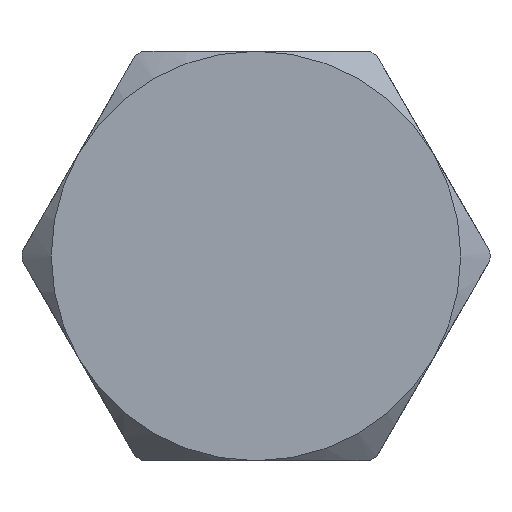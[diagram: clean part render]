
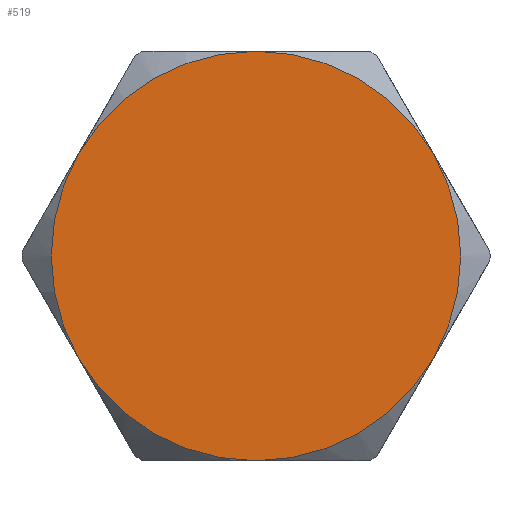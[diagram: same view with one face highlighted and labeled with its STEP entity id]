
A CAD part, front view. The second image highlights one B-rep face of the part: STEP entity #519.
In plain terms, the highlighted planar face has unit normal (0, -1, 0).
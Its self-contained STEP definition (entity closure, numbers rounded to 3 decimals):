
#8 = CARTESIAN_POINT ( 'NONE',  ( 0., -130., 0. ) ) ;
#19 = EDGE_CURVE ( 'NONE', #93, #601, #481, .T. ) ;
#40 = CARTESIAN_POINT ( 'NONE',  ( 3.031, -130., -1.75 ) ) ;
#58 = DIRECTION ( 'NONE',  ( 0., 0., 1. ) ) ;
#84 = ORIENTED_EDGE ( 'NONE', *, *, #384, .F. ) ;
#93 = VERTEX_POINT ( 'NONE', #113 ) ;
#113 = CARTESIAN_POINT ( 'NONE',  ( -3.031, -130., -1.75 ) ) ;
#121 = ORIENTED_EDGE ( 'NONE', *, *, #793, .F. ) ;
#147 = AXIS2_PLACEMENT_3D ( 'NONE', #8, #160, #235 ) ;
#154 = ORIENTED_EDGE ( 'NONE', *, *, #19, .F. ) ;
#160 = DIRECTION ( 'NONE',  ( 0., 1., 0. ) ) ;
#221 = DIRECTION ( 'NONE',  ( 0., 1., 0. ) ) ;
#234 = EDGE_LOOP ( 'NONE', ( #624, #764, #154, #84, #121, #473 ) ) ;
#235 = DIRECTION ( 'NONE',  ( 0., 0., 1. ) ) ;
#259 = PLANE ( 'NONE',  #804 ) ;
#262 = CARTESIAN_POINT ( 'NONE',  ( -3.031, -130., 1.75 ) ) ;
#292 = CARTESIAN_POINT ( 'NONE',  ( 0., -130., 0. ) ) ;
#315 = AXIS2_PLACEMENT_3D ( 'NONE', #292, #715, #440 ) ;
#333 = VERTEX_POINT ( 'NONE', #650 ) ;
#362 = AXIS2_PLACEMENT_3D ( 'NONE', #903, #629, #896 ) ;
#384 = EDGE_CURVE ( 'NONE', #564, #93, #799, .T. ) ;
#413 = DIRECTION ( 'NONE',  ( 0., 0., 1. ) ) ;
#440 = DIRECTION ( 'NONE',  ( 0., 0., 1. ) ) ;
#443 = AXIS2_PLACEMENT_3D ( 'NONE', #772, #498, #58 ) ;
#451 = FACE_OUTER_BOUND ( 'NONE', #234, .T. ) ;
#473 = ORIENTED_EDGE ( 'NONE', *, *, #829, .F. ) ;
#481 = CIRCLE ( 'NONE', #821, 3.5 ) ;
#498 = DIRECTION ( 'NONE',  ( 0., 1., 0. ) ) ;
#519 = ADVANCED_FACE ( 'NONE', ( #451 ), #259, .F. ) ;
#529 = VERTEX_POINT ( 'NONE', #679 ) ;
#532 = CIRCLE ( 'NONE', #315, 3.5 ) ;
#537 = CARTESIAN_POINT ( 'NONE',  ( 0., -130., 0. ) ) ;
#540 = VERTEX_POINT ( 'NONE', #40 ) ;
#547 = DIRECTION ( 'NONE',  ( 0., 1., 0. ) ) ;
#564 = VERTEX_POINT ( 'NONE', #674 ) ;
#568 = CARTESIAN_POINT ( 'NONE',  ( 0., -130., 0. ) ) ;
#575 = DIRECTION ( 'NONE',  ( 0., 0., 1. ) ) ;
#580 = AXIS2_PLACEMENT_3D ( 'NONE', #568, #221, #575 ) ;
#587 = CIRCLE ( 'NONE', #580, 3.5 ) ;
#597 = CIRCLE ( 'NONE', #443, 3.5 ) ;
#601 = VERTEX_POINT ( 'NONE', #262 ) ;
#624 = ORIENTED_EDGE ( 'NONE', *, *, #781, .F. ) ;
#629 = DIRECTION ( 'NONE',  ( 0., 1., 0. ) ) ;
#650 = CARTESIAN_POINT ( 'NONE',  ( 0., -130., 3.5 ) ) ;
#673 = CARTESIAN_POINT ( 'NONE',  ( 0., -130., 0. ) ) ;
#674 = CARTESIAN_POINT ( 'NONE',  ( 0., -130., -3.5 ) ) ;
#679 = CARTESIAN_POINT ( 'NONE',  ( 3.031, -130., 1.75 ) ) ;
#704 = EDGE_CURVE ( 'NONE', #601, #333, #597, .T. ) ;
#715 = DIRECTION ( 'NONE',  ( 0., 1., 0. ) ) ;
#730 = CIRCLE ( 'NONE', #362, 3.5 ) ;
#745 = DIRECTION ( 'NONE',  ( 0., 0., 1. ) ) ;
#764 = ORIENTED_EDGE ( 'NONE', *, *, #704, .F. ) ;
#772 = CARTESIAN_POINT ( 'NONE',  ( 0., -130., 0. ) ) ;
#781 = EDGE_CURVE ( 'NONE', #333, #529, #730, .T. ) ;
#793 = EDGE_CURVE ( 'NONE', #540, #564, #587, .T. ) ;
#799 = CIRCLE ( 'NONE', #147, 3.5 ) ;
#804 = AXIS2_PLACEMENT_3D ( 'NONE', #537, #822, #413 ) ;
#821 = AXIS2_PLACEMENT_3D ( 'NONE', #673, #547, #745 ) ;
#822 = DIRECTION ( 'NONE',  ( 0., 1., 0. ) ) ;
#829 = EDGE_CURVE ( 'NONE', #529, #540, #532, .T. ) ;
#896 = DIRECTION ( 'NONE',  ( 0., 0., 1. ) ) ;
#903 = CARTESIAN_POINT ( 'NONE',  ( 0., -130., 0. ) ) ;
